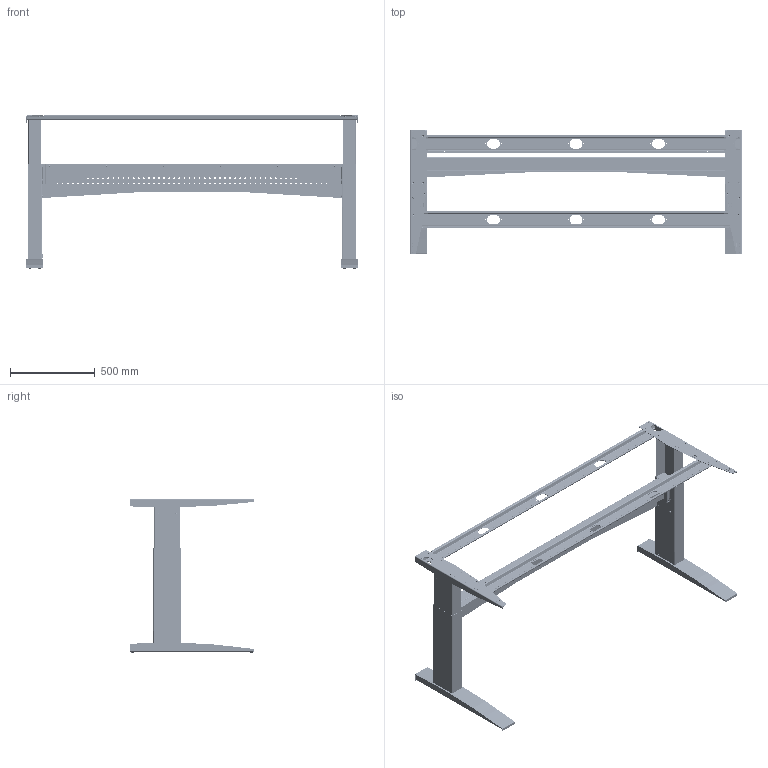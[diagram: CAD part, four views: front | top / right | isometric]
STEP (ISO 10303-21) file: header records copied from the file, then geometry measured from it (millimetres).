
FILE_DESCRIPTION (( 'STEP AP203' ), '1' );
FILE_NAME ('Tech-draw_501-11_XX196.STEP', '2019-09-24T11:32:53', ( '' ), ( '' ), 'SwSTEP 2.0', 'SolidWorks 2018', '' );
FILE_SCHEMA (( 'CONFIG_CONTROL_DESIGN' ));
Length unit declared in the file: millimetre
Products named in the file (46): 103680_silver; 103340_silver; 103650_silver; 103370_silver; 304310; 305680_zinc; 104000_silver; 103990_silver; 303560_silver; 304320_silver; 103320_silver; 303590_silver; 303930_zinc; 304650_silver; 303940_silver; 300600; 103380_silver; 103400_silver; 303520; Weld_09; 103470_silver; 305660_silver; 103490_silver; 303550; 104100_wo wire; Tech-draw_501-11_XX196; 303530; 303720_silver; 103670_silver; 304640; 345830; 304650_zinc; 304130; 149570_501-11 XS196; 303580_silver; 103390_silver; 303540; 304300; 103360_silver; 103350_silver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
Assembly tree (107 placements, depth 8):
  Tech-draw_501-11_XX196
    149570_501-11 XS196
      103680_silver  x2
        103670_silver
          304300
          304130  x8
        300600
      104000_silver
        103990_silver
          103390_silver
            103350_silver
              103320_silver
                303540
                303550
              303720_silver
              303590_silver
          103410_silver
            103370_silver
              303530
              303520
              Weld_09  x2
            303930_zinc  x6
        304650_silver  x6
        303470  x4
        303560_silver
        303430_silver
        305680_zinc  x2
        104100_wo wire
          304640
      103490_silver
        103470_silver
          103380_silver
            103340_silver
              103320_silver
                303540
                303550
                345830  x2
              303580_silver
              303590_silver
          103400_silver
            103360_silver
              303530
              303510
              Weld_09  x4
            303930_zinc  x2
        303940_silver
        304650_zinc  x6
        303470  x4
        305660_silver
        305680_zinc  x2
      103660_silver
        103650_silver
          304310
          304130  x6
        304650_zinc  x6
      304320_silver
Bounding box: 1962.45 x 732.3 x 905.5 mm (x, y, z)
Volume: 4955847.7 mm3; surface area: 6285091.3 mm2
Topology: 101 solids, 101 shells, 5115 faces, 13859 edges, 9067 vertices
Faces by surface type: plane 2544, cylinder 2058, bspline 252, torus 175, cone 78, sphere 8
Full cylindrical faces by diameter (mm): 1.5 x3, 3.2 x4, 3.3 x4, 4 x60, 4.2 x4, 4.5 x20, 5 x38, 6 x406, 6.2 x24, 6.5 x2, 6.8 x4, 7 x56, 8 x16, 9 x22, 10 x12, 13 x6, 27.6 x1, 28 x2, 30 x1
Entity records: 122005 total; most frequent: CARTESIAN_POINT 29614, DIRECTION 18088, ORIENTED_EDGE 17442, EDGE_CURVE 8721, AXIS2_PLACEMENT_3D 6162, VERTEX_POINT 5811, VECTOR 5764, LINE 5764
